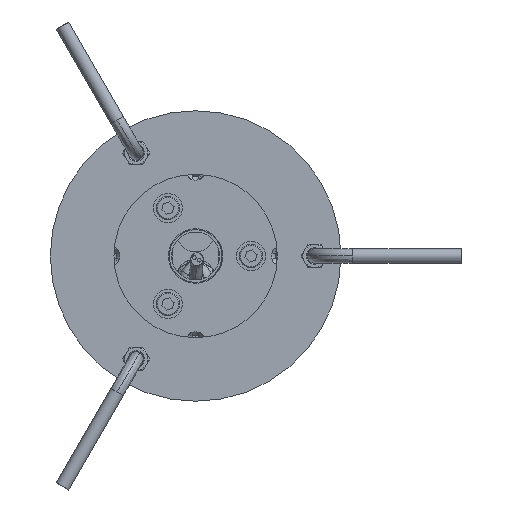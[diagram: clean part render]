
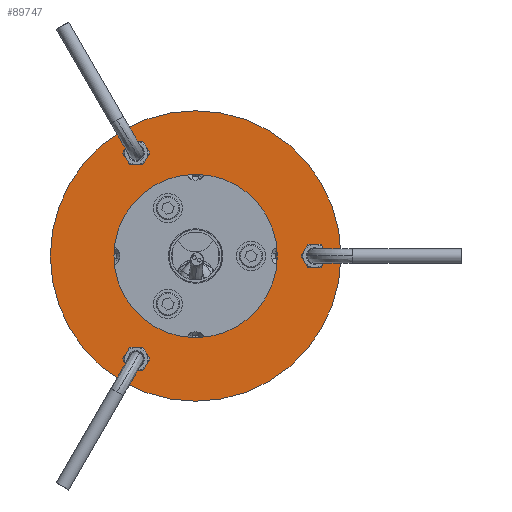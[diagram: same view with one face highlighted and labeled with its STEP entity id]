
A CAD part, front view. The second image highlights one B-rep face of the part: STEP entity #89747.
In plain terms, the highlighted planar face has unit normal (0, -1, 0) as drawn and (0, 0, 1) by its records, which use the part's own axes.
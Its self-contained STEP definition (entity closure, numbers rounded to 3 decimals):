
#89518=CARTESIAN_POINT('',(0.,0.,1.5));
#89519=DIRECTION('',(0.,0.,1.));
#89520=DIRECTION('',(1.,0.,0.));
#89521=AXIS2_PLACEMENT_3D('',#89518,#89519,#89520);
#89523=CARTESIAN_POINT('',(0.,0.,1.5));
#89524=DIRECTION('',(0.,0.,1.));
#89525=DIRECTION('',(-1.,0.,0.));
#89526=AXIS2_PLACEMENT_3D('',#89523,#89524,#89525);
#89528=CARTESIAN_POINT('',(0.,0.,1.5));
#89529=DIRECTION('',(0.,0.,-1.));
#89530=DIRECTION('',(1.,0.,0.));
#89531=AXIS2_PLACEMENT_3D('',#89528,#89529,#89530);
#89533=CARTESIAN_POINT('',(0.,0.,1.5));
#89534=DIRECTION('',(0.,0.,-1.));
#89535=DIRECTION('',(-1.,0.,0.));
#89536=AXIS2_PLACEMENT_3D('',#89533,#89534,#89535);
#89538=CARTESIAN_POINT('',(0.,-65.5,1.5));
#89539=DIRECTION('',(0.,0.,-1.));
#89540=DIRECTION('',(1.,0.,0.));
#89541=AXIS2_PLACEMENT_3D('',#89538,#89539,#89540);
#89543=CARTESIAN_POINT('',(0.,-65.5,1.5));
#89544=DIRECTION('',(0.,0.,-1.));
#89545=DIRECTION('',(-1.,0.,0.));
#89546=AXIS2_PLACEMENT_3D('',#89543,#89544,#89545);
#89548=CARTESIAN_POINT('',(-56.725,32.75,1.5));
#89549=DIRECTION('',(0.,0.,-1.));
#89550=DIRECTION('',(1.,0.,0.));
#89551=AXIS2_PLACEMENT_3D('',#89548,#89549,#89550);
#89553=CARTESIAN_POINT('',(-56.725,32.75,1.5));
#89554=DIRECTION('',(0.,0.,-1.));
#89555=DIRECTION('',(-1.,0.,0.));
#89556=AXIS2_PLACEMENT_3D('',#89553,#89554,#89555);
#89558=CARTESIAN_POINT('',(56.725,32.75,1.5));
#89559=DIRECTION('',(0.,0.,-1.));
#89560=DIRECTION('',(1.,0.,0.));
#89561=AXIS2_PLACEMENT_3D('',#89558,#89559,#89560);
#89563=CARTESIAN_POINT('',(56.725,32.75,1.5));
#89564=DIRECTION('',(0.,0.,-1.));
#89565=DIRECTION('',(-1.,0.,0.));
#89566=AXIS2_PLACEMENT_3D('',#89563,#89564,#89565);
#89596=CARTESIAN_POINT('',(-45.,0.,1.5));
#89597=CARTESIAN_POINT('',(45.,0.,1.5));
#89598=VERTEX_POINT('',#89596);
#89599=VERTEX_POINT('',#89597);
#89608=CARTESIAN_POINT('',(-61.225,32.75,1.5));
#89609=CARTESIAN_POINT('',(-52.225,32.75,1.5));
#89610=VERTEX_POINT('',#89608);
#89611=VERTEX_POINT('',#89609);
#89616=CARTESIAN_POINT('',(4.5,-65.5,1.5));
#89617=CARTESIAN_POINT('',(-4.5,-65.5,1.5));
#89618=VERTEX_POINT('',#89616);
#89619=VERTEX_POINT('',#89617);
#89624=CARTESIAN_POINT('',(61.225,32.75,1.5));
#89625=VERTEX_POINT('',#89624);
#89626=CARTESIAN_POINT('',(52.225,32.75,1.5));
#89627=VERTEX_POINT('',#89626);
#89632=CARTESIAN_POINT('',(80.,0.,1.5));
#89633=CARTESIAN_POINT('',(-80.,0.,1.5));
#89634=VERTEX_POINT('',#89632);
#89635=VERTEX_POINT('',#89633);
#89715=CARTESIAN_POINT('',(0.,0.,1.5));
#89716=DIRECTION('',(0.,0.,1.));
#89717=DIRECTION('',(1.,0.,0.));
#89718=AXIS2_PLACEMENT_3D('',#89715,#89716,#89717);
#89719=PLANE('',#89718);
#89720=ORIENTED_EDGE('',*,*,#89695,.F.);
#89721=ORIENTED_EDGE('',*,*,#89708,.F.);
#89722=EDGE_LOOP('',(#89720,#89721));
#89723=FACE_OUTER_BOUND('',#89722,.F.);
#89725=ORIENTED_EDGE('',*,*,#89724,.F.);
#89727=ORIENTED_EDGE('',*,*,#89726,.F.);
#89728=EDGE_LOOP('',(#89725,#89727));
#89729=FACE_BOUND('',#89728,.F.);
#89731=ORIENTED_EDGE('',*,*,#89730,.F.);
#89733=ORIENTED_EDGE('',*,*,#89732,.F.);
#89734=EDGE_LOOP('',(#89731,#89733));
#89735=FACE_BOUND('',#89734,.F.);
#89736=ORIENTED_EDGE('',*,*,#89645,.F.);
#89738=ORIENTED_EDGE('',*,*,#89737,.F.);
#89739=EDGE_LOOP('',(#89736,#89738));
#89740=FACE_BOUND('',#89739,.F.);
#89742=ORIENTED_EDGE('',*,*,#89741,.F.);
#89744=ORIENTED_EDGE('',*,*,#89743,.F.);
#89745=EDGE_LOOP('',(#89742,#89744));
#89746=FACE_BOUND('',#89745,.F.);
#89747=ADVANCED_FACE('',(#89723,#89729,#89735,#89740,#89746),#89719,.T.);
#89522=CIRCLE('',#89521,80.);
#89527=CIRCLE('',#89526,80.);
#89532=CIRCLE('',#89531,45.);
#89537=CIRCLE('',#89536,45.);
#89542=CIRCLE('',#89541,4.5);
#89547=CIRCLE('',#89546,4.5);
#89552=CIRCLE('',#89551,4.5);
#89557=CIRCLE('',#89556,4.5);
#89562=CIRCLE('',#89561,4.5);
#89567=CIRCLE('',#89566,4.5);
#89645=EDGE_CURVE('',#89611,#89610,#89552,.T.);
#89695=EDGE_CURVE('',#89634,#89635,#89522,.T.);
#89708=EDGE_CURVE('',#89635,#89634,#89527,.T.);
#89724=EDGE_CURVE('',#89599,#89598,#89532,.T.);
#89726=EDGE_CURVE('',#89598,#89599,#89537,.T.);
#89730=EDGE_CURVE('',#89618,#89619,#89542,.T.);
#89732=EDGE_CURVE('',#89619,#89618,#89547,.T.);
#89737=EDGE_CURVE('',#89610,#89611,#89557,.T.);
#89741=EDGE_CURVE('',#89625,#89627,#89562,.T.);
#89743=EDGE_CURVE('',#89627,#89625,#89567,.T.);
